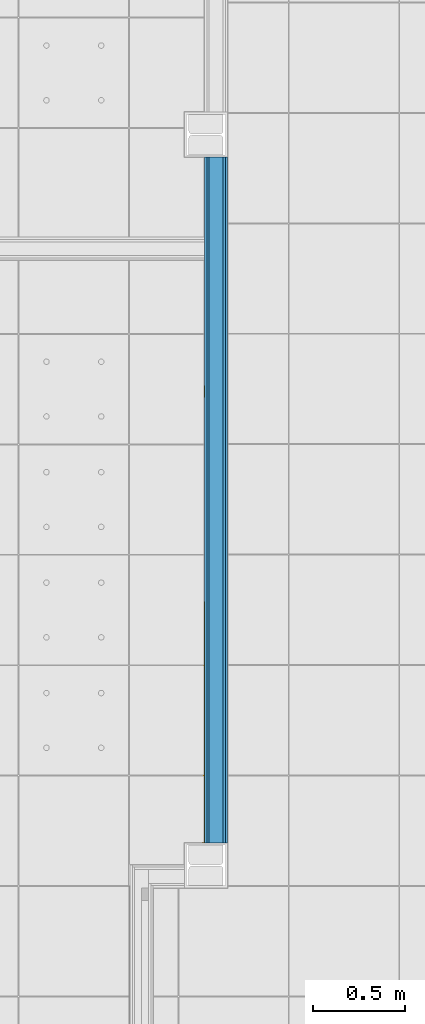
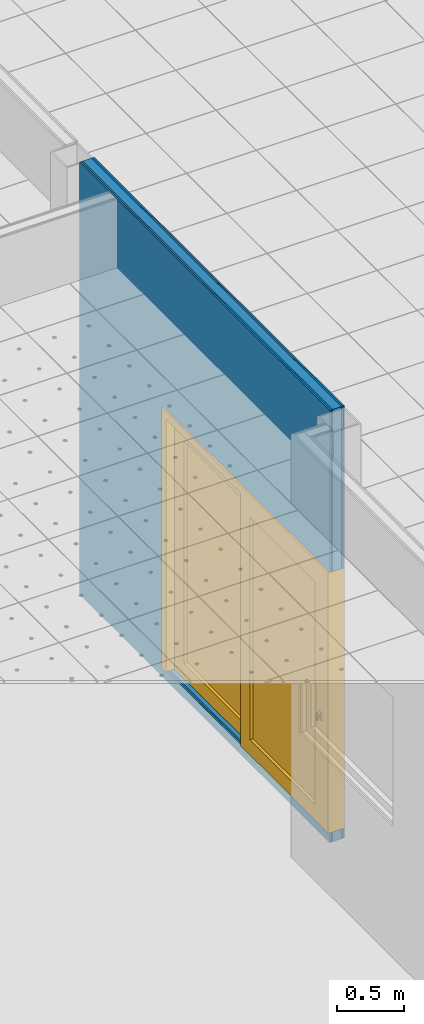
# One storey, part 19 of 321: 5 building element parts, 1 door, 1 opening, 1 element without a shape of its own.
"""IFC2X3 building model written with IfcOpenShell, lengths in millimetres."""

from ifc_helpers import new_model, entity, si_unit, converted_unit, derived_unit, money_unit, direction, frame, origin_with_axes, place, context, subcontext, project, spatial, open_shell, faceted_brep, surface_model, source, transform, mapped, material, type_object, type_shapes, element, fill, aggregate, save


model = new_model("IFC2X3")

# Units and contexts
model_context = context("Model", 3, precision=0.01, world=origin_with_axes(), true_north=direction((0.0, 1.0)))
plan_context = context("Plan", 3, precision=0.01, world=origin_with_axes(), true_north=direction((0.0, 1.0)))
body_context = subcontext(model_context, "Body", "Model", "MODEL_VIEW")
ifc_project = project(units=[si_unit("LENGTHUNIT", "METRE", prefix="MILLI"), si_unit("AREAUNIT", "SQUARE_METRE"), si_unit("VOLUMEUNIT", "CUBIC_METRE"), converted_unit("PLANEANGLEUNIT", "DEGREE", entity("IfcPlaneAngleMeasure", 0.0174532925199), si_unit("PLANEANGLEUNIT", "RADIAN"), dimensions=[0, 0, 0, 0, 0, 0, 0]), money_unit("EUR"), converted_unit("TIMEUNIT", "Year", entity("IfcTimeMeasure", 31556926.0), si_unit("TIMEUNIT", "SECOND"), dimensions=[0, 0, 1, 0, 0, 0, 0]), si_unit("MASSUNIT", "GRAM", prefix="KILO"), si_unit("THERMODYNAMICTEMPERATUREUNIT", "DEGREE_CELSIUS"), si_unit("LUMINOUSINTENSITYUNIT", "LUMEN"), si_unit("ENERGYUNIT", "JOULE", prefix="MEGA"), derived_unit("THERMALCONDUCTANCEUNIT", [(si_unit("POWERUNIT", "WATT"), 1), (si_unit("LENGTHUNIT", "METRE"), -1), (si_unit("THERMODYNAMICTEMPERATUREUNIT", "KELVIN"), -1)]), derived_unit("SPECIFICHEATCAPACITYUNIT", [(si_unit("ENERGYUNIT", "JOULE"), 1), (si_unit("MASSUNIT", "GRAM", prefix="KILO"), -1), (si_unit("THERMODYNAMICTEMPERATUREUNIT", "KELVIN"), -1)]), derived_unit("MASSDENSITYUNIT", [(si_unit("MASSUNIT", "GRAM", prefix="KILO"), 1), (si_unit("VOLUMEUNIT", "CUBIC_METRE"), -1)])], contexts=[model_context, plan_context])

# Site, building, storey
site_placement = place(None, origin_with_axes())
site = spatial("IfcSite", under=ifc_project, at=site_placement, Name="Fortuinstraat Woensdrecht", CompositionType="ELEMENT")
building_placement = place(site_placement, origin_with_axes())
building = spatial("IfcBuilding", under=site, at=building_placement, Name="IKC Fortuna", CompositionType="ELEMENT")
storey_placement = place(building_placement, frame((0.0, 0.0, 4000.0), z_axis=(0.0, 0.0, 1.0), x_axis=(1.0, 0.0, 0.0)))
storey = spatial("IfcBuildingStorey", under=building, at=storey_placement, Name="01 eerste verdieping", CompositionType="ELEMENT", Elevation=4000.0)

# Door
door_style = type_object("IfcDoorStyle", Name="DSn 25", ConstructionType="NOTDEFINED", OperationType="USERDEFINED", ParameterTakesPrecedence=False, Sizeable=False)
shared_shape = source(origin_with_axes(), body_context, "Body", "SurfaceModel", [
    faceted_brep([(1242.5, 0.0, 0.0), (1242.5, -139.0, 0.0), (1175.5, -139.0, 0.0), (1175.5, 0.0, 0.0), (1242.5, 0.0, 2300.0), (1242.5, -139.0, 2300.0), (1175.5, -139.0, 2300.0), (1175.5, 0.0, 2300.0)], [[[0, 1, 2, 3]], [[4, 5, 1, 0]], [[1, 5, 6, 2]], [[3, 2, 6, 7]], [[0, 3, 7, 4]], [[7, 6, 5, 4]]]),
    faceted_brep([(-1242.5, 0.0, 0.0), (-1242.5, -139.0, 0.0), (-1242.5, -139.0, 2300.0), (-1242.5, 0.0, 2300.0), (-1175.5, 0.0, 0.0), (-1175.5, -139.0, 0.0), (-1175.5, -139.0, 2300.0), (-1175.5, 0.0, 2300.0)], [[[0, 1, 2, 3]], [[4, 5, 1, 0]], [[1, 5, 6, 2]], [[3, 2, 6, 7]], [[0, 3, 7, 4]], [[7, 6, 5, 4]]]),
    faceted_brep([(1242.5, 0.0, 2367.0), (1242.5, -139.0, 2367.0), (1242.5, -139.0, 2300.0), (1242.5, 0.0, 2300.0), (-1242.5, 0.0, 2367.0), (-1242.5, -139.0, 2367.0), (-1242.5, -139.0, 2300.0), (-1175.5, -139.0, 2300.0), (1175.5, -139.0, 2300.0), (1175.5, 0.0, 2300.0), (-1175.5, 0.0, 2300.0), (-1242.5, 0.0, 2300.0)], [[[0, 1, 2, 3]], [[4, 5, 1, 0]], [[1, 5, 6, 7, 8, 2]], [[3, 2, 8, 9]], [[0, 3, 9, 10, 11, 4]], [[11, 6, 5, 4]], [[10, 7, 6, 11]], [[9, 8, 7, 10]]]),
    faceted_brep([(-1175.5, 0.0, 139.0), (-1036.5, 0.0, 139.0), (-1036.5, -64.5, 139.0), (-1175.5, -64.5, 139.0), (-1175.5, 0.0, 2161.0), (-1036.5, 0.0, 2161.0), (-1036.5, -64.5, 2161.0), (-1175.5, -64.5, 2161.0)], [[[0, 1, 2, 3]], [[0, 4, 5, 1]], [[1, 5, 6, 2]], [[3, 2, 6, 7]], [[4, 0, 3, 7]], [[5, 4, 7, 6]]]),
    faceted_brep([(69.5, 0.0, 139.0), (69.5, 0.0, 2161.0), (69.5, -64.5, 2161.0), (69.5, -64.5, 139.0), (-69.5, 0.0, 139.0), (-69.5, 0.0, 2161.0), (-69.5, -64.5, 2161.0), (-69.5, -64.5, 139.0)], [[[0, 1, 2, 3]], [[0, 4, 5, 1]], [[1, 5, 6, 2]], [[3, 2, 6, 7]], [[4, 0, 3, 7]], [[5, 4, 7, 6]]]),
    faceted_brep([(-1175.5, 0.0, 0.0), (69.5, 0.0, 0.0), (69.5, -64.5, 0.0), (-1175.5, -64.5, 0.0), (-1175.5, 0.0, 139.0), (-1036.5, 0.0, 139.0), (-69.5, 0.0, 139.0), (69.5, 0.0, 139.0), (69.5, -64.5, 139.0), (-69.5, -64.5, 139.0), (-1036.5, -64.5, 139.0), (-1175.5, -64.5, 139.0)], [[[0, 1, 2, 3]], [[0, 4, 5, 6, 7, 1]], [[1, 7, 8, 2]], [[3, 2, 8, 9, 10, 11]], [[4, 0, 3, 11]], [[5, 4, 11, 10]], [[6, 5, 10, 9]], [[7, 6, 9, 8]]]),
    faceted_brep([(-1175.5, 0.0, 2300.0), (-1175.5, 0.0, 2161.0), (-1175.5, -64.5, 2161.0), (-1175.5, -64.5, 2300.0), (69.5, 0.0, 2300.0), (69.5, 0.0, 2161.0), (-69.5, 0.0, 2161.0), (-1036.5, 0.0, 2161.0), (-1036.5, -64.5, 2161.0), (-69.5, -64.5, 2161.0), (69.5, -64.5, 2161.0), (69.5, -64.5, 2300.0)], [[[0, 1, 2, 3]], [[0, 4, 5, 6, 7, 1]], [[1, 7, 8, 2]], [[3, 2, 8, 9, 10, 11]], [[4, 0, 3, 11]], [[5, 4, 11, 10]], [[6, 5, 10, 9]], [[7, 6, 9, 8]]]),
    surface_model("IfcShellBasedSurfaceModel", [(-1036.5, -26.25, 139.0), (-1036.5, -26.25, 2161.0), (-69.5, -26.25, 2161.0), (-69.5, -26.25, 139.0)], [open_shell([[[0, 1, 2, 3]]])]),
    surface_model("IfcShellBasedSurfaceModel", [(-1036.5, -38.25, 139.0), (-69.5, -38.25, 139.0), (-69.5, -38.25, 2161.0), (-1036.5, -38.25, 2161.0)], [open_shell([[[0, 1, 2, 3]]])]),
    faceted_brep([(1110.5, -134.0, 965.0), (1110.5, -144.0, 965.0), (1110.5, -144.0, 1035.0), (1110.5, -134.0, 1035.0), (1140.5, -134.0, 965.0), (1140.5, -144.0, 965.0), (1140.5, -144.0, 1035.0), (1140.5, -134.0, 1035.0)], [[[0, 1, 2, 3]], [[4, 5, 1, 0]], [[1, 5, 6, 2]], [[3, 2, 6, 7]], [[0, 3, 7, 4]], [[7, 6, 5, 4]]]),
    faceted_brep([(1124.13436775, -144.0, 1006.86549696), (1125.5, -144.0, 1007.0), (1126.86563225, -144.0, 1006.86549696), (1128.17878403, -144.0, 1006.46715673), (1129.38899163, -144.0, 1005.82028729), (1130.44974747, -144.0, 1004.94974747), (1131.32028729, -144.0, 1003.88899163), (1131.96715673, -144.0, 1002.67878403), (1132.36549696, -144.0, 1001.36563225), (1132.5, -144.0, 1000.0), (1132.36549696, -144.0, 998.634367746), (1131.96715673, -144.0, 997.321215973), (1131.32028729, -144.0, 996.111008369), (1130.44974747, -144.0, 995.050252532), (1129.38899163, -144.0, 994.179712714), (1128.17878403, -144.0, 993.532843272), (1126.86563225, -144.0, 993.134503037), (1125.5, -144.0, 993.0), (1124.13436775, -144.0, 993.134503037), (1122.82121597, -144.0, 993.532843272), (1121.61100837, -144.0, 994.179712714), (1120.55025253, -144.0, 995.050252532), (1119.67971271, -144.0, 996.111008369), (1119.03284327, -144.0, 997.321215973), (1118.63450304, -144.0, 998.634367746), (1118.5, -144.0, 1000.0), (1118.63450304, -144.0, 1001.36563225), (1119.03284327, -144.0, 1002.67878403), (1119.67971271, -144.0, 1003.88899163), (1120.55025253, -144.0, 1004.94974747), (1121.61100837, -144.0, 1005.82028729), (1122.82121597, -144.0, 1006.46715673), (1124.13436775, -159.0, 1006.86549696), (1125.5, -159.0, 1007.0), (1126.86563225, -159.0, 1006.86549696), (1128.17878403, -159.0, 1006.46715673), (1129.38899163, -159.0, 1005.82028729), (1130.44974747, -159.0, 1004.94974747), (1131.32028729, -159.0, 1003.88899163), (1131.96715673, -159.0, 1002.67878403), (1132.36549696, -159.0, 1001.36563225), (1132.5, -159.0, 1000.0), (1132.36549696, -159.0, 998.634367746), (1131.96715673, -159.0, 997.321215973), (1131.32028729, -159.0, 996.111008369), (1130.44974747, -159.0, 995.050252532), (1129.38899163, -159.0, 994.179712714), (1128.17878403, -159.0, 993.532843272), (1126.86563225, -159.0, 993.134503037), (1125.5, -159.0, 993.0), (1124.13436775, -159.0, 993.134503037), (1122.82121597, -159.0, 993.532843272), (1121.61100837, -159.0, 994.179712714), (1120.55025253, -159.0, 995.050252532), (1119.67971271, -159.0, 996.111008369), (1119.03284327, -159.0, 997.321215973), (1118.63450304, -159.0, 998.634367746), (1118.5, -159.0, 1000.0), (1118.63450304, -159.0, 1001.36563225), (1119.03284327, -159.0, 1002.67878403), (1119.67971271, -159.0, 1003.88899163), (1120.55025253, -159.0, 1004.94974747), (1121.61100837, -159.0, 1005.82028729), (1122.82121597, -159.0, 1006.46715673)], [[[0, 1, 2, 3, 4, 5, 6, 7, 8, 9, 10, 11, 12, 13, 14, 15, 16, 17, 18, 19, 20, 21, 22, 23, 24, 25, 26, 27, 28, 29, 30, 31]], [[0, 32, 33, 1]], [[1, 33, 34, 2]], [[2, 34, 35, 3]], [[3, 35, 36, 4]], [[4, 36, 37, 5]], [[5, 37, 38, 6]], [[6, 38, 39, 7]], [[7, 39, 40, 8]], [[8, 40, 41, 9]], [[9, 41, 42, 10]], [[10, 42, 43, 11]], [[11, 43, 44, 12]], [[12, 44, 45, 13]], [[13, 45, 46, 14]], [[14, 46, 47, 15]], [[15, 47, 48, 16]], [[16, 48, 49, 17]], [[17, 49, 50, 18]], [[18, 50, 51, 19]], [[19, 51, 52, 20]], [[20, 52, 53, 21]], [[21, 53, 54, 22]], [[22, 54, 55, 23]], [[23, 55, 56, 24]], [[24, 56, 57, 25]], [[25, 57, 58, 26]], [[26, 58, 59, 27]], [[27, 59, 60, 28]], [[28, 60, 61, 29]], [[29, 61, 62, 30]], [[30, 62, 63, 31]], [[31, 63, 32, 0]], [[32, 63, 62, 61, 60, 59, 58, 57, 56, 55, 54, 53, 52, 51, 50, 49, 48, 47, 46, 45, 44, 43, 42, 41, 40, 39, 38, 37, 36, 35, 34, 33]]]),
    faceted_brep([(1115.5, -159.0, 990.0), (1115.5, -169.0, 990.0), (1115.5, -169.0, 1010.0), (1115.5, -159.0, 1010.0), (1135.5, -159.0, 990.0), (1135.5, -169.0, 990.0), (1135.5, -169.0, 1010.0), (1135.5, -159.0, 1010.0)], [[[0, 1, 2, 3]], [[4, 5, 1, 0]], [[1, 5, 6, 2]], [[3, 2, 6, 7]], [[0, 3, 7, 4]], [[7, 6, 5, 4]]]),
    faceted_brep([(1115.5, -169.0, 990.0), (1120.5, -167.0, 965.0), (1130.5, -167.0, 965.0), (1135.5, -169.0, 990.0), (1115.5, -159.0, 990.0), (1120.5, -163.0, 965.0), (1130.5, -163.0, 965.0), (1135.5, -159.0, 990.0)], [[[0, 1, 2, 3]], [[4, 5, 1, 0]], [[1, 5, 6, 2]], [[3, 2, 6, 7]], [[0, 3, 7, 4]], [[7, 6, 5, 4]]]),
    faceted_brep([(1115.5, -169.0, 1010.0), (1135.5, -169.0, 1010.0), (1130.5, -167.0, 1035.0), (1120.5, -167.0, 1035.0), (1115.5, -159.0, 1010.0), (1135.5, -159.0, 1010.0), (1130.5, -163.0, 1035.0), (1120.5, -163.0, 1035.0)], [[[0, 1, 2, 3]], [[0, 4, 5, 1]], [[1, 5, 6, 2]], [[3, 2, 6, 7]], [[4, 0, 3, 7]], [[5, 4, 7, 6]]]),
    faceted_brep([(1110.5, -69.5, 965.0), (1110.5, -69.5, 1035.0), (1110.5, -59.5, 1035.0), (1110.5, -59.5, 965.0), (1140.5, -69.5, 965.0), (1140.5, -69.5, 1035.0), (1140.5, -59.5, 1035.0), (1140.5, -59.5, 965.0)], [[[0, 1, 2, 3]], [[0, 4, 5, 1]], [[1, 5, 6, 2]], [[3, 2, 6, 7]], [[4, 0, 3, 7]], [[5, 4, 7, 6]]]),
    faceted_brep([(1124.13436775, -59.5, 1006.86549696), (1122.82121597, -59.5, 1006.46715673), (1121.61100837, -59.5, 1005.82028729), (1120.55025253, -59.5, 1004.94974747), (1119.67971271, -59.5, 1003.88899163), (1119.03284327, -59.5, 1002.67878403), (1118.63450304, -59.5, 1001.36563225), (1118.5, -59.5, 1000.0), (1118.63450304, -59.5, 998.634367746), (1119.03284327, -59.5, 997.321215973), (1119.67971271, -59.5, 996.111008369), (1120.55025253, -59.5, 995.050252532), (1121.61100837, -59.5, 994.179712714), (1122.82121597, -59.5, 993.532843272), (1124.13436775, -59.5, 993.134503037), (1125.5, -59.5, 993.0), (1126.86563225, -59.5, 993.134503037), (1128.17878403, -59.5, 993.532843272), (1129.38899163, -59.5, 994.179712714), (1130.44974747, -59.5, 995.050252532), (1131.32028729, -59.5, 996.111008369), (1131.96715673, -59.5, 997.321215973), (1132.36549696, -59.5, 998.634367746), (1132.5, -59.5, 1000.0), (1132.36549696, -59.5, 1001.36563225), (1131.96715673, -59.5, 1002.67878403), (1131.32028729, -59.5, 1003.88899163), (1130.44974747, -59.5, 1004.94974747), (1129.38899163, -59.5, 1005.82028729), (1128.17878403, -59.5, 1006.46715673), (1126.86563225, -59.5, 1006.86549696), (1125.5, -59.5, 1007.0), (1124.13436775, -44.5, 1006.86549696), (1122.82121597, -44.5, 1006.46715673), (1121.61100837, -44.5, 1005.82028729), (1120.55025253, -44.5, 1004.94974747), (1119.67971271, -44.5, 1003.88899163), (1119.03284327, -44.5, 1002.67878403), (1118.63450304, -44.5, 1001.36563225), (1118.5, -44.5, 1000.0), (1118.63450304, -44.5, 998.634367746), (1119.03284327, -44.5, 997.321215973), (1119.67971271, -44.5, 996.111008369), (1120.55025253, -44.5, 995.050252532), (1121.61100837, -44.5, 994.179712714), (1122.82121597, -44.5, 993.532843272), (1124.13436775, -44.5, 993.134503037), (1125.5, -44.5, 993.0), (1126.86563225, -44.5, 993.134503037), (1128.17878403, -44.5, 993.532843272), (1129.38899163, -44.5, 994.179712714), (1130.44974747, -44.5, 995.050252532), (1131.32028729, -44.5, 996.111008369), (1131.96715673, -44.5, 997.321215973), (1132.36549696, -44.5, 998.634367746), (1132.5, -44.5, 1000.0), (1132.36549696, -44.5, 1001.36563225), (1131.96715673, -44.5, 1002.67878403), (1131.32028729, -44.5, 1003.88899163), (1130.44974747, -44.5, 1004.94974747), (1129.38899163, -44.5, 1005.82028729), (1128.17878403, -44.5, 1006.46715673), (1126.86563225, -44.5, 1006.86549696), (1125.5, -44.5, 1007.0)], [[[0, 1, 2, 3, 4, 5, 6, 7, 8, 9, 10, 11, 12, 13, 14, 15, 16, 17, 18, 19, 20, 21, 22, 23, 24, 25, 26, 27, 28, 29, 30, 31]], [[1, 0, 32, 33]], [[2, 1, 33, 34]], [[3, 2, 34, 35]], [[4, 3, 35, 36]], [[5, 4, 36, 37]], [[6, 5, 37, 38]], [[7, 6, 38, 39]], [[8, 7, 39, 40]], [[9, 8, 40, 41]], [[10, 9, 41, 42]], [[11, 10, 42, 43]], [[12, 11, 43, 44]], [[13, 12, 44, 45]], [[14, 13, 45, 46]], [[15, 14, 46, 47]], [[16, 15, 47, 48]], [[17, 16, 48, 49]], [[18, 17, 49, 50]], [[19, 18, 50, 51]], [[20, 19, 51, 52]], [[21, 20, 52, 53]], [[22, 21, 53, 54]], [[23, 22, 54, 55]], [[24, 23, 55, 56]], [[25, 24, 56, 57]], [[26, 25, 57, 58]], [[27, 26, 58, 59]], [[28, 27, 59, 60]], [[29, 28, 60, 61]], [[30, 29, 61, 62]], [[31, 30, 62, 63]], [[0, 31, 63, 32]], [[32, 63, 62, 61, 60, 59, 58, 57, 56, 55, 54, 53, 52, 51, 50, 49, 48, 47, 46, 45, 44, 43, 42, 41, 40, 39, 38, 37, 36, 35, 34, 33]]]),
    faceted_brep([(1115.5, -44.5, 990.0), (1115.5, -44.5, 1010.0), (1115.5, -34.5, 1010.0), (1115.5, -34.5, 990.0), (1135.5, -44.5, 990.0), (1135.5, -44.5, 1010.0), (1135.5, -34.5, 1010.0), (1135.5, -34.5, 990.0)], [[[0, 1, 2, 3]], [[0, 4, 5, 1]], [[1, 5, 6, 2]], [[3, 2, 6, 7]], [[4, 0, 3, 7]], [[5, 4, 7, 6]]]),
    faceted_brep([(1115.5, -34.5, 990.0), (1135.5, -34.5, 990.0), (1130.5, -36.5, 965.0), (1120.5, -36.5, 965.0), (1115.5, -44.5, 990.0), (1135.5, -44.5, 990.0), (1130.5, -40.5, 965.0), (1120.5, -40.5, 965.0)], [[[0, 1, 2, 3]], [[0, 4, 5, 1]], [[1, 5, 6, 2]], [[3, 2, 6, 7]], [[4, 0, 3, 7]], [[5, 4, 7, 6]]]),
    faceted_brep([(1115.5, -34.5, 1010.0), (1120.5, -36.5, 1035.0), (1130.5, -36.5, 1035.0), (1135.5, -34.5, 1010.0), (1115.5, -44.5, 1010.0), (1120.5, -40.5, 1035.0), (1130.5, -40.5, 1035.0), (1135.5, -44.5, 1010.0)], [[[0, 1, 2, 3]], [[4, 5, 1, 0]], [[1, 5, 6, 2]], [[3, 2, 6, 7]], [[0, 3, 7, 4]], [[7, 6, 5, 4]]]),
    faceted_brep([(-69.5, -69.5, 139.0), (69.5, -69.5, 139.0), (69.5, -134.0, 139.0), (-69.5, -134.0, 139.0), (-69.5, -69.5, 2161.0), (69.5, -69.5, 2161.0), (69.5, -134.0, 2161.0), (-69.5, -134.0, 2161.0)], [[[0, 1, 2, 3]], [[0, 4, 5, 1]], [[1, 5, 6, 2]], [[3, 2, 6, 7]], [[4, 0, 3, 7]], [[5, 4, 7, 6]]]),
    faceted_brep([(1175.5, -69.5, 139.0), (1175.5, -69.5, 2161.0), (1175.5, -134.0, 2161.0), (1175.5, -134.0, 139.0), (1036.5, -69.5, 139.0), (1036.5, -69.5, 2161.0), (1036.5, -134.0, 2161.0), (1036.5, -134.0, 139.0)], [[[0, 1, 2, 3]], [[0, 4, 5, 1]], [[1, 5, 6, 2]], [[3, 2, 6, 7]], [[4, 0, 3, 7]], [[5, 4, 7, 6]]]),
    faceted_brep([(-69.5, -69.5, 0.0), (1175.5, -69.5, 0.0), (1175.5, -134.0, 0.0), (-69.5, -134.0, 0.0), (-69.5, -69.5, 139.0), (69.5, -69.5, 139.0), (1036.5, -69.5, 139.0), (1175.5, -69.5, 139.0), (1175.5, -134.0, 139.0), (1036.5, -134.0, 139.0), (69.5, -134.0, 139.0), (-69.5, -134.0, 139.0)], [[[0, 1, 2, 3]], [[0, 4, 5, 6, 7, 1]], [[1, 7, 8, 2]], [[3, 2, 8, 9, 10, 11]], [[4, 0, 3, 11]], [[5, 4, 11, 10]], [[6, 5, 10, 9]], [[7, 6, 9, 8]]]),
    faceted_brep([(-69.5, -69.5, 2300.0), (-69.5, -69.5, 2161.0), (-69.5, -134.0, 2161.0), (-69.5, -134.0, 2300.0), (1175.5, -69.5, 2300.0), (1175.5, -69.5, 2161.0), (1036.5, -69.5, 2161.0), (69.5, -69.5, 2161.0), (69.5, -134.0, 2161.0), (1036.5, -134.0, 2161.0), (1175.5, -134.0, 2161.0), (1175.5, -134.0, 2300.0)], [[[0, 1, 2, 3]], [[0, 4, 5, 6, 7, 1]], [[1, 7, 8, 2]], [[3, 2, 8, 9, 10, 11]], [[4, 0, 3, 11]], [[5, 4, 11, 10]], [[6, 5, 10, 9]], [[7, 6, 9, 8]]]),
    surface_model("IfcShellBasedSurfaceModel", [(69.5, -95.75, 139.0), (69.5, -95.75, 2161.0), (1036.5, -95.75, 2161.0), (1036.5, -95.75, 139.0)], [open_shell([[[0, 1, 2, 3]]])]),
    surface_model("IfcShellBasedSurfaceModel", [(69.5, -107.75, 139.0), (1036.5, -107.75, 139.0), (1036.5, -107.75, 2161.0), (69.5, -107.75, 2161.0)], [open_shell([[[0, 1, 2, 3]]])]),
])
type_shapes(door_style, [shared_shape])
wall_placement = place(storey_placement, frame((20624.4349765, 24219.7966283, -90.0), z_axis=(0.0, 0.0, 1.0), x_axis=(0.0, 1.0, 0.0)))
opening_placement = place(wall_placement, frame((1242.5, 0.0, 90.0), z_axis=(0.0, 0.0, 1.0), x_axis=(1.0, 0.0, 0.0)))
door_placement = place(opening_placement, frame((1242.5, 0.0, 0.0), z_axis=(0.0, 0.0, 1.0), x_axis=(-1.0, 0.0, 0.0)))
door = element("IfcDoor", 1, at=door_placement, inside=storey, type_object=door_style, Name="32_Deur_h.03", ObjectType="DOOR", OverallHeight=2367.0, OverallWidth=2485.0, context=body_context, shape_type="MappedRepresentation", body=[
    mapped(shared_shape, transform((1242.5, 62.5, 0.0))),
])

# Wall, opening
wall_type = type_object("IfcWallType", Name="MS125 2.75.2A 125", PredefinedType="NOTDEFINED")
wall = element("IfcWall", 2, at=wall_placement, inside=storey, type_object=wall_type, Name="22_Wand_Binnenwand")
opening = element("IfcOpeningElement", 3, at=opening_placement, cuts=wall, Name="32_Deur_h.03", context=body_context, shape_type="Brep", body=[
    faceted_brep([(1242.5, -250.0, 2367.0), (1242.5, -250.0, 0.0), (1242.5, 125.0, 0.0), (1242.5, 125.0, 2367.0), (-1242.5, -250.0, 2367.0), (-1242.5, -250.0, 0.0), (-1242.5, 125.0, 0.0), (-1242.5, 125.0, 2367.0)], [[[0, 1, 2, 3]], [[0, 4, 5, 1]], [[1, 5, 6, 2]], [[3, 2, 6, 7]], [[4, 0, 3, 7]], [[5, 4, 7, 6]]]),
])

fill(opening, door)

# Building element part
ifc_material_1 = material(Name="Gipsplaat")
building_element_part_1_placement = place(wall_placement, origin_with_axes())
building_element_part_1 = element("IfcBuildingElementPart", 4, at=building_element_part_1_placement, material=ifc_material_1, Name="Gipsplaat", context=body_context, shape_type="Brep", body=[
    faceted_brep([(2485.0, 50.0, 90.0), (0.0, 50.0, 90.0), (0.0, 50.0, 0.0), (3725.0, 50.0, 0.0), (3725.0, 50.0, 3930.0), (0.0, 50.0, 3930.0), (0.0, 50.0, 2457.0), (2485.0, 50.0, 2457.0), (2485.0, 62.5, 90.0), (0.0, 62.5, 90.0), (0.0, 62.5, 0.0), (3725.0, 62.5, 0.0), (3725.0, 62.5, 3930.0), (0.0, 62.5, 3930.0), (0.0, 62.5, 2457.0), (2485.0, 62.5, 2457.0)], [[[0, 1, 2, 3, 4, 5, 6, 7]], [[1, 0, 8, 9]], [[1, 9, 10, 2]], [[3, 2, 10, 11]], [[3, 11, 12, 4]], [[12, 13, 5, 4]], [[14, 6, 5, 13]], [[7, 6, 14, 15]], [[0, 7, 15, 8]], [[15, 14, 13, 12, 11, 10, 9, 8]]]),
])

building_element_part_2_placement = place(wall_placement, origin_with_axes())
building_element_part_2 = element("IfcBuildingElementPart", 5, at=building_element_part_2_placement, material=ifc_material_1, Name="Gipsplaat", context=body_context, shape_type="Brep", body=[
    faceted_brep([(2485.0, 37.5, 90.0), (0.0, 37.5, 90.0), (0.0, 37.5, 0.0), (3725.0, 37.5, 0.0), (3725.0, 37.5, 3930.0), (0.0, 37.5, 3930.0), (0.0, 37.5, 2457.0), (2485.0, 37.5, 2457.0), (2485.0, 50.0, 90.0), (0.0, 50.0, 90.0), (0.0, 50.0, 0.0), (3725.0, 50.0, 0.0), (3725.0, 50.0, 3930.0), (0.0, 50.0, 3930.0), (0.0, 50.0, 2457.0), (2485.0, 50.0, 2457.0)], [[[0, 1, 2, 3, 4, 5, 6, 7]], [[1, 0, 8, 9]], [[1, 9, 10, 2]], [[3, 2, 10, 11]], [[3, 11, 12, 4]], [[12, 13, 5, 4]], [[14, 6, 5, 13]], [[7, 6, 14, 15]], [[0, 7, 15, 8]], [[15, 14, 13, 12, 11, 10, 9, 8]]]),
])

ifc_material_2 = material(Name="Isolatie - Steenwol LSW")
building_element_part_3_placement = place(wall_placement, origin_with_axes())
building_element_part_3 = element("IfcBuildingElementPart", 6, at=building_element_part_3_placement, material=ifc_material_2, Name="Isolatie - Steenwol LSW", context=body_context, shape_type="Brep", body=[
    faceted_brep([(2485.0, -37.5, 90.0), (0.0, -37.5, 90.0), (0.0, -37.5, 0.0), (3725.0, -37.5, 0.0), (3725.0, -37.5, 3930.0), (0.0, -37.5, 3930.0), (0.0, -37.5, 2457.0), (2485.0, -37.5, 2457.0), (2485.0, 37.5, 90.0), (0.0, 37.5, 90.0), (0.0, 37.5, 0.0), (3725.0, 37.5, 0.0), (3725.0, 37.5, 3930.0), (0.0, 37.5, 3930.0), (0.0, 37.5, 2457.0), (2485.0, 37.5, 2457.0)], [[[0, 1, 2, 3, 4, 5, 6, 7]], [[1, 0, 8, 9]], [[1, 9, 10, 2]], [[3, 2, 10, 11]], [[3, 11, 12, 4]], [[12, 13, 5, 4]], [[14, 6, 5, 13]], [[7, 6, 14, 15]], [[0, 7, 15, 8]], [[15, 14, 13, 12, 11, 10, 9, 8]]]),
])

building_element_part_4_placement = place(wall_placement, origin_with_axes())
building_element_part_4 = element("IfcBuildingElementPart", 7, at=building_element_part_4_placement, material=ifc_material_1, Name="Gipsplaat", context=body_context, shape_type="Brep", body=[
    faceted_brep([(2485.0, -50.0, 90.0), (0.0, -50.0, 90.0), (0.0, -50.0, 0.0), (3725.0, -50.0, 0.0), (3725.0, -50.0, 3930.0), (0.0, -50.0, 3930.0), (0.0, -50.0, 2457.0), (2485.0, -50.0, 2457.0), (2485.0, -37.5, 90.0), (0.0, -37.5, 90.0), (0.0, -37.5, 0.0), (3725.0, -37.5, 0.0), (3725.0, -37.5, 3930.0), (0.0, -37.5, 3930.0), (0.0, -37.5, 2457.0), (2485.0, -37.5, 2457.0)], [[[0, 1, 2, 3, 4, 5, 6, 7]], [[1, 0, 8, 9]], [[1, 9, 10, 2]], [[3, 2, 10, 11]], [[3, 11, 12, 4]], [[12, 13, 5, 4]], [[14, 6, 5, 13]], [[7, 6, 14, 15]], [[0, 7, 15, 8]], [[15, 14, 13, 12, 11, 10, 9, 8]]]),
])

building_element_part_5_placement = place(wall_placement, origin_with_axes())
building_element_part_5 = element("IfcBuildingElementPart", 8, at=building_element_part_5_placement, material=ifc_material_1, Name="Gipsplaat", context=body_context, shape_type="Brep", body=[
    faceted_brep([(2485.0, -62.5, 90.0), (0.0, -62.5, 90.0), (0.0, -62.5, 0.0), (3725.0, -62.5, 0.0), (3725.0, -62.5, 3930.0), (0.0, -62.5, 3930.0), (0.0, -62.5, 2457.0), (2485.0, -62.5, 2457.0), (2485.0, -50.0, 90.0), (0.0, -50.0, 90.0), (0.0, -50.0, 0.0), (3725.0, -50.0, 0.0), (3725.0, -50.0, 3930.0), (0.0, -50.0, 3930.0), (0.0, -50.0, 2457.0), (2485.0, -50.0, 2457.0)], [[[0, 1, 2, 3, 4, 5, 6, 7]], [[1, 0, 8, 9]], [[1, 9, 10, 2]], [[3, 2, 10, 11]], [[3, 11, 12, 4]], [[12, 13, 5, 4]], [[14, 6, 5, 13]], [[7, 6, 14, 15]], [[0, 7, 15, 8]], [[15, 14, 13, 12, 11, 10, 9, 8]]]),
])

aggregate(wall, [building_element_part_1, building_element_part_2, building_element_part_3, building_element_part_4, building_element_part_5])

save(model, "model.ifc")
